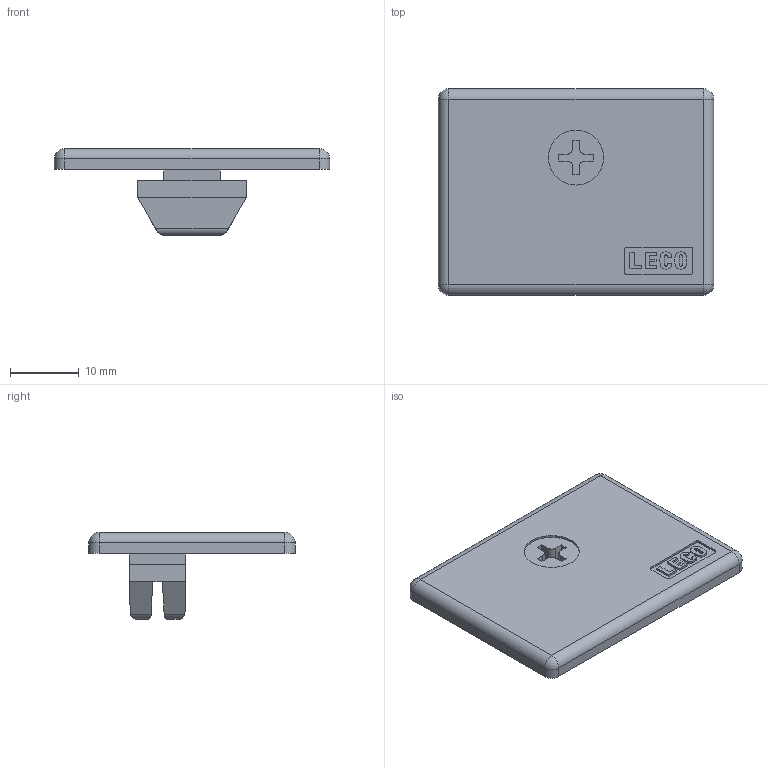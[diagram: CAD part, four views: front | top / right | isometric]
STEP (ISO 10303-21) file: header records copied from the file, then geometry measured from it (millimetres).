
FILE_DESCRIPTION(('STEP AP214'),'1');
FILE_NAME('EP34.stp','2017-07-24T04:53:56',(' '),(' '),'Spatial InterOp 3D',' ',' ');
FILE_SCHEMA(('automotive_design'));
Length unit declared in the file: millimetre
Products named in the file (3): EP34; EP34部品; FZK
Assembly tree (2 placements, depth 2):
  EP34
    EP34部品
    FZK
Bounding box: 40 x 30 x 12.6 mm (x, y, z)
Volume: 3940.1 mm3; surface area: 3586.8 mm2
Topology: 2 solids, 2 shells, 137 faces, 353 edges, 226 vertices
Faces by surface type: plane 76, cylinder 57, sphere 4
Full cylindrical faces by diameter (mm): 8 x1
Entity records: 5324 total; most frequent: CARTESIAN_POINT 770, DIRECTION 726, ORIENTED_EDGE 696, EDGE_CURVE 348, AXIS2_PLACEMENT_3D 246, LINE 234, VECTOR 234, VERTEX_POINT 226
